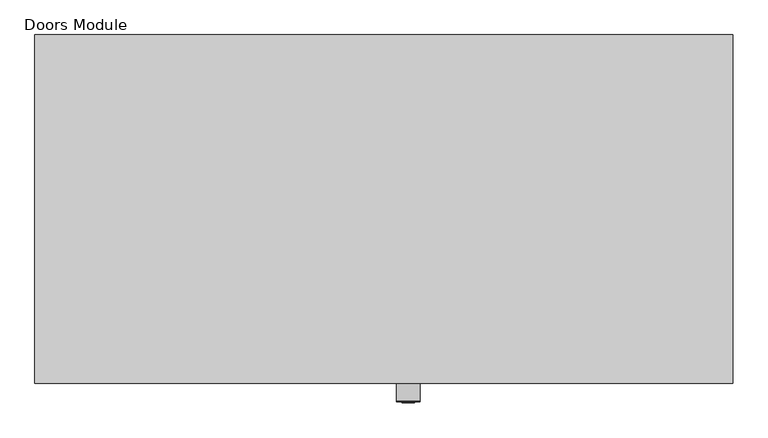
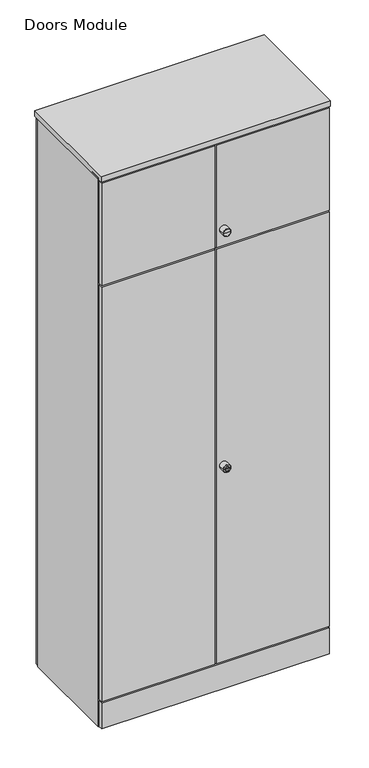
"""IFC4 building model written with IfcOpenShell, lengths in millimetres: furniture geometry, Furniture_Storage_Spacestor_SignatureStoragewall : Doors Module."""

from ifc_helpers import new_model, si_unit, point, frame, origin, origin_with_axes, place, context, project, spatial, polyline, circle_curve, ellipse_curve, trimmed, outline, extrude, source, transform, mapped, element, save
from ifc_brep_helpers import plane_surface, cylinder_surface, revolved_surface, advanced_brep


def doors_module_a6a85d60(model_context):
    return source(origin(), model_context, "Body", "SolidModel", [
        extrude(outline(polyline([(996.5, 459.0), (3.5, 459.0), (3.5, 477.0), (996.5, 477.0), (996.5, 459.0)])), origin_with_axes(), (0.0, 0.0, 1.0), 2518.0),
        extrude(outline(polyline([(996.5, -18.0), (3.5, -18.0), (3.5, 0.0), (996.5, 0.0), (996.5, -18.0)])), origin_with_axes(), (0.0, 0.0, 1.0), 118.0),
        extrude(outline(polyline([(1000.0, -20.5), (0.0, -20.5), (0.0, 479.5), (1000.0, 479.5), (1000.0, -20.5)])), frame((0.0, 0.0, 2525.0), z_axis=(0.0, 0.0, 1.0), x_axis=(1.0, 0.0, 0.0)), (0.0, 0.0, 1.0), 25.5),
        extrude(outline(polyline([(1000.0, 0.0), (989.0, 0.0), (989.0, 459.0), (1000.0, 459.0), (1000.0, 0.0)])), origin_with_axes(), (0.0, 0.0, 1.0), 2532.5),
        extrude(outline(polyline([(11.0, 0.0), (0.0, 0.0), (0.0, 459.0), (11.0, 459.0), (11.0, 0.0)])), origin_with_axes(), (0.0, 0.0, 1.0), 2532.5),
        extrude(outline(polyline([(989.0, 0.0), (11.0, 0.0), (11.0, 459.0), (989.0, 459.0), (989.0, 0.0)])), frame((0.0, 0.0, 1639.0), z_axis=(0.0, 0.0, 1.0), x_axis=(1.0, 0.0, 0.0)), (0.0, 0.0, 1.0), 22.0),
        extrude(outline(polyline([(989.0, 0.0), (11.0, 0.0), (11.0, 459.0), (989.0, 459.0), (989.0, 0.0)])), frame((0.0, 0.0, 1255.0), z_axis=(0.0, 0.0, 1.0), x_axis=(1.0, 0.0, 0.0)), (0.0, 0.0, 1.0), 22.0),
        extrude(outline(polyline([(989.0, 0.0), (11.0, 0.0), (11.0, 459.0), (989.0, 459.0), (989.0, 0.0)])), frame((0.0, 0.0, 871.0), z_axis=(0.0, 0.0, 1.0), x_axis=(1.0, 0.0, 0.0)), (0.0, 0.0, 1.0), 22.0),
        extrude(outline(polyline([(989.0, 0.0), (11.0, 0.0), (11.0, 459.0), (989.0, 459.0), (989.0, 0.0)])), frame((0.0, 0.0, 487.0), z_axis=(0.0, 0.0, 1.0), x_axis=(1.0, 0.0, 0.0)), (0.0, 0.0, 1.0), 22.0),
        advanced_brep(
        [(552.0, -45.3116344, 1032.0), (518.0, -45.3116344, 1032.0), (518.0, -18.0, 1032.0), (552.0, -18.0, 1032.0), (535.0, -18.0, 1032.0), (543.9747319, -46.3150077, 1032.0), (526.0252681, -46.3150077, 1032.0), (519.0033734, -46.3150077, 1032.0), (550.9966266, -46.3150077, 1032.0), (543.9747319, -47.4703043, 1032.0), (526.0252681, -47.4703043, 1032.0), (539.8245152, -47.4703043, 1032.0), (539.8245152, -47.4703043, 1030.6366562), (530.1754848, -47.4703043, 1030.6366562), (530.1754848, -47.4703043, 1032.0), (530.1754848, -47.4703043, 1033.3633438), (539.8245152, -47.4703043, 1033.3633438), (530.1754848, -27.8604291, 1030.6366562), (539.8245152, -27.8604291, 1030.6366562), (539.8245152, -27.8604291, 1033.3633438), (530.1754848, -27.8604291, 1033.3633438)],
        [
            (0, 1, circle_curve(frame((535.0, -45.3116344, 1032.0), z_axis=(0.0, 1.0, 0.0), x_axis=(-1.0, 0.0, 0.0)), 17.0)),
            (1, 2),
            (2, 3, circle_curve(frame((535.0, -18.0, 1032.0), z_axis=(0.0, -1.0, 0.0), x_axis=(-1.0, 0.0, 0.0)), 17.0)),
            (3, 0),
            (1, 0, circle_curve(frame((535.0, -45.3116344, 1032.0), z_axis=(0.0, 1.0, 0.0), x_axis=(-1.0, 0.0, 0.0)), 17.0)),
            (3, 2, circle_curve(frame((535.0, -18.0, 1032.0), z_axis=(0.0, -1.0, 0.0), x_axis=(-1.0, 0.0, 0.0)), 17.0)),
            (2, 4),
            (4, 3),
            (5, 6, circle_curve(frame((535.0, -46.3150077, 1032.0), z_axis=(0.0, 1.0, 0.0), x_axis=(-1.0, 0.0, 0.0)), 8.9747319)),
            (6, 7),
            (7, 8, circle_curve(frame((535.0, -46.3150077, 1032.0), z_axis=(0.0, -1.0, 0.0), x_axis=(-1.0, 0.0, 0.0)), 15.9966266)),
            (8, 5),
            (6, 5, circle_curve(frame((535.0, -46.3150077, 1032.0), z_axis=(0.0, 1.0, 0.0), x_axis=(-1.0, 0.0, 0.0)), 8.9747319)),
            (8, 7, circle_curve(frame((535.0, -46.3150077, 1032.0), z_axis=(0.0, -1.0, 0.0), x_axis=(-1.0, 0.0, 0.0)), 15.9966266)),
            (0, 8, circle_curve(frame((550.9966266, -45.3116344, 1032.0), z_axis=(0.0, 0.0, -1.0), x_axis=(1.0, 0.0, 0.0)), 1.0033734)),
            (7, 1, circle_curve(frame((519.0033734, -45.3116344, 1032.0), z_axis=(0.0, 0.0, -1.0), x_axis=(-1.0, 0.0, 0.0)), 1.0033734)),
            (5, 9),
            (9, 10, circle_curve(frame((535.0, -47.4703043, 1032.0), z_axis=(0.0, 1.0, 0.0), x_axis=(-1.0, 0.0, 0.0)), 8.9747319)),
            (10, 6),
            (10, 9, circle_curve(frame((535.0, -47.4703043, 1032.0), z_axis=(0.0, 1.0, 0.0), x_axis=(-1.0, 0.0, 0.0)), 8.9747319)),
            (9, 11),
            (11, 12),
            (12, 13),
            (13, 14),
            (14, 10),
            (14, 15),
            (15, 16),
            (16, 11),
            (17, 18),
            (18, 19),
            (19, 20),
            (20, 17),
            (17, 13),
            (12, 18),
            (16, 19),
            (15, 20),
        ],
        [
            cylinder_surface(frame((535.0, -2627.0581012, 1032.0), z_axis=(0.0, -1.0, 0.0), x_axis=(-1.0, 0.0, 0.0)), 17.0),
            plane_surface(frame((535.0, -18.0, 1032.0), z_axis=(0.0, 1.0, 0.0), x_axis=(-1.0, 0.0, 0.0))),
            plane_surface(frame((535.0, -46.3150077, 1032.0), z_axis=(0.0, -1.0, 0.0), x_axis=(-1.0, 0.0, 0.0))),
            revolved_surface(trimmed(ellipse_curve(frame((519.0033734, -45.3116344, 1032.0), z_axis=(0.0, 0.0, 1.0), x_axis=(-1.0, 0.0, 0.0)), 1.0033734, 1.0033734), [point((518.0, -45.3116344, 1032.0))], [point((519.0033734, -46.3150077, 1032.0))], True, "CARTESIAN"), (535.0, -2627.0581012, 1032.0), (0.0, -1.0, 0.0)),
            cylinder_surface(frame((535.0, -2627.0581012, 1032.0), z_axis=(0.0, -1.0, 0.0), x_axis=(-1.0, 0.0, 0.0)), 8.9747319),
            plane_surface(frame((535.0, -47.4703043, 1032.0), z_axis=(0.0, -1.0, 0.0), x_axis=(-1.0, 0.0, 0.0))),
            plane_surface(frame((539.4565249, -27.8604291, 1030.6366562), z_axis=(0.0, -1.0, 0.0), x_axis=(-1.0, 0.0, 0.0))),
            plane_surface(frame((530.1754848, -49.2046383, 1030.6366562), z_axis=(0.0, 0.0, 1.0), x_axis=(0.0, 1.0, 0.0))),
            plane_surface(frame((539.8245152, -49.2046383, 1030.6366562), z_axis=(-1.0, 0.0, 0.0), x_axis=(0.0, 1.0, 0.0))),
            plane_surface(frame((539.8245152, -49.2046383, 1033.3633438), z_axis=(0.0, 0.0, -1.0), x_axis=(0.0, 1.0, 0.0))),
            plane_surface(frame((530.1754848, -49.2046383, 1033.3633438), z_axis=(1.0, 0.0, 0.0), x_axis=(0.0, 1.0, 0.0))),
        ],
        [
            (0, [[1, 2, 3, 4]]),
            (0, [[-2, 5, -4, 6]]),
            (1, [[-3, 7, 8]]),
            (1, [[-6, -8, -7]]),
            (2, [[9, 10, 11, 12]]),
            (2, [[-10, 13, -12, 14]]),
            (3, [[-1, 15, -11, 16]]),
            (3, [[-5, -16, -14, -15]]),
            (4, [[-9, 17, 18, 19]]),
            (4, [[-13, -19, 20, -17]]),
            (5, [[-18, 21, 22, 23, 24, 25]]),
            (5, [[-20, -25, 26, 27, 28, -21]]),
            (6, [[29, 30, 31, 32]]),
            (7, [[-29, 33, -23, 34]]),
            (8, [[-30, -34, -22, -28, 35]]),
            (9, [[-31, -35, -27, 36]]),
            (10, [[-32, -36, -26, -24, -33]]),
        ],
    ),
        extrude(outline(polyline([(3.5, -18.0), (3.5, 0.0), (496.5, 0.0), (496.5, -18.0), (3.5, -18.0)])), frame((0.0, 0.0, 125.0), z_axis=(0.0, 0.0, 1.0), x_axis=(1.0, 0.0, 0.0)), (0.0, 0.0, 1.0), 1913.0),
        extrude(outline(polyline([(996.5, -18.0), (503.5, -18.0), (503.5, 0.0), (996.5, 0.0), (996.5, -18.0)])), frame((0.0, 0.0, 125.0), z_axis=(0.0, 0.0, 1.0), x_axis=(1.0, 0.0, 0.0)), (0.0, 0.0, 1.0), 1913.0),
        extrude(outline(polyline([(989.0, 0.0), (11.0, 0.0), (11.0, 459.0), (989.0, 459.0), (989.0, 0.0)])), frame((0.0, 0.0, 110.5), z_axis=(0.0, 0.0, 1.0), x_axis=(1.0, 0.0, 0.0)), (0.0, 0.0, 1.0), 22.0),
        extrude(outline(polyline([(989.0, 0.0), (11.0, 0.0), (11.0, 459.0), (989.0, 459.0), (989.0, 0.0)])), frame((0.0, 0.0, 2510.0), z_axis=(0.0, 0.0, 1.0), x_axis=(1.0, 0.0, 0.0)), (0.0, 0.0, 1.0), 22.0),
        extrude(outline(polyline([(989.0, 0.0), (11.0, 0.0), (11.0, 459.0), (989.0, 459.0), (989.0, 0.0)])), frame((0.0, 0.0, 2030.5), z_axis=(0.0, 0.0, 1.0), x_axis=(1.0, 0.0, 0.0)), (0.0, 0.0, 1.0), 22.0),
        advanced_brep(
        [(552.0, -45.3116344, 2120.0), (518.0, -45.3116344, 2120.0), (518.0, -18.0, 2120.0), (552.0, -18.0, 2120.0), (535.0, -18.0, 2120.0), (535.0, -46.3150077, 2120.0), (519.0033734, -46.3150077, 2120.0), (550.9966266, -46.3150077, 2120.0)],
        [
            (0, 1, circle_curve(frame((535.0, -45.3116344, 2120.0), z_axis=(0.0, 1.0, 0.0), x_axis=(-1.0, 0.0, 0.0)), 17.0)),
            (1, 2),
            (2, 3, circle_curve(frame((535.0, -18.0, 2120.0), z_axis=(0.0, -1.0, 0.0), x_axis=(-1.0, 0.0, 0.0)), 17.0)),
            (3, 0),
            (1, 0, circle_curve(frame((535.0, -45.3116344, 2120.0), z_axis=(0.0, 1.0, 0.0), x_axis=(-1.0, 0.0, 0.0)), 17.0)),
            (3, 2, circle_curve(frame((535.0, -18.0, 2120.0), z_axis=(0.0, -1.0, 0.0), x_axis=(-1.0, 0.0, 0.0)), 17.0)),
            (2, 4),
            (4, 3),
            (5, 6),
            (6, 7, circle_curve(frame((535.0, -46.3150077, 2120.0), z_axis=(0.0, -1.0, 0.0), x_axis=(-1.0, 0.0, 0.0)), 15.9966266)),
            (7, 5),
            (7, 6, circle_curve(frame((535.0, -46.3150077, 2120.0), z_axis=(0.0, -1.0, 0.0), x_axis=(-1.0, 0.0, 0.0)), 15.9966266)),
            (6, 1, circle_curve(frame((519.0033734, -45.3116344, 2120.0), z_axis=(0.0, 0.0, -1.0), x_axis=(-1.0, 0.0, 0.0)), 1.0033734)),
            (0, 7, circle_curve(frame((550.9966266, -45.3116344, 2120.0), z_axis=(0.0, 0.0, -1.0), x_axis=(1.0, 0.0, 0.0)), 1.0033734)),
        ],
        [
            cylinder_surface(frame((535.0, -2627.0581012, 2120.0), z_axis=(0.0, -1.0, 0.0), x_axis=(-1.0, 0.0, 0.0)), 17.0),
            plane_surface(frame((535.0, -18.0, 2120.0), z_axis=(0.0, 1.0, 0.0), x_axis=(-1.0, 0.0, 0.0))),
            plane_surface(frame((535.0, -46.3150077, 2120.0), z_axis=(0.0, -1.0, 0.0), x_axis=(-1.0, 0.0, 0.0))),
            revolved_surface(trimmed(ellipse_curve(frame((519.0033734, -45.3116344, 2120.0), z_axis=(0.0, 0.0, 1.0), x_axis=(-1.0, 0.0, 0.0)), 1.0033734, 1.0033734), [point((518.0, -45.3116344, 2120.0))], [point((519.0033734, -46.3150077, 2120.0))], True, "CARTESIAN"), (535.0, -2627.0581012, 2120.0), (0.0, -1.0, 0.0)),
        ],
        [
            (0, [[1, 2, 3, 4]]),
            (0, [[5, -4, 6, -2]]),
            (1, [[-3, 7, 8]]),
            (1, [[-6, -8, -7]]),
            (2, [[9, 10, 11]]),
            (2, [[-11, 12, -9]]),
            (3, [[-10, 13, -1, 14]]),
            (3, [[-12, -14, -5, -13]]),
        ],
    ),
        extrude(outline(polyline([(3.5, -18.0), (3.5, 0.0), (496.5, 0.0), (496.5, -18.0), (3.5, -18.0)])), frame((0.0, 0.0, 2045.0), z_axis=(0.0, 0.0, 1.0), x_axis=(1.0, 0.0, 0.0)), (0.0, 0.0, 1.0), 473.0),
        extrude(outline(polyline([(996.5, -18.0), (503.5, -18.0), (503.5, 0.0), (996.5, 0.0), (996.5, -18.0)])), frame((0.0, 0.0, 2045.0), z_axis=(0.0, 0.0, 1.0), x_axis=(1.0, 0.0, 0.0)), (0.0, 0.0, 1.0), 473.0),
    ])


if __name__ == "__main__":
    model = new_model("IFC4")
    model_context = context("Model", 3, world=origin())
    ifc_project = project(units=[si_unit("LENGTHUNIT", "METRE", prefix="MILLI")], contexts=[model_context])
    site = spatial("IfcSite", under=ifc_project)
    building = spatial("IfcBuilding", under=site)
    placement = place(None, origin())
    doors_module_shape = doors_module_a6a85d60(model_context)
    element("IfcFurniture", 1, ObjectType="Furniture_Storage_Spacestor_SignatureStoragewall : Doors Module", at=placement, inside=building, context=model_context, shape_type="MappedRepresentation", body=[
        mapped(doors_module_shape, transform((0.0, 0.0, 0.0), x_axis=(1.0, 0.0, 0.0), y_axis=(0.0, 1.0, 0.0), z_axis=(0.0, 0.0, 1.0))),
    ])
    save(model, "model.ifc")
